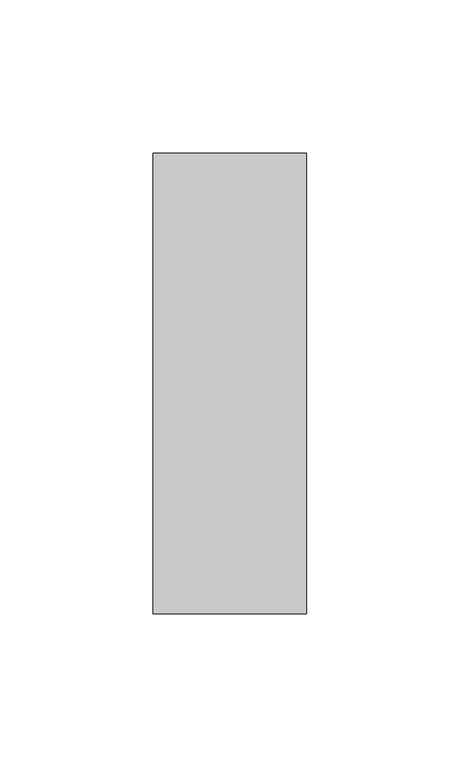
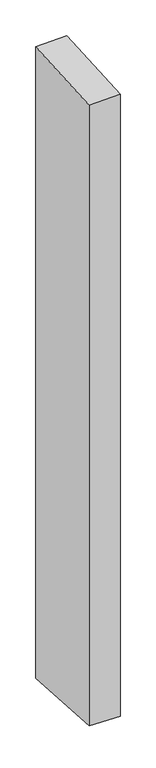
"""IFC4 building model written with IfcOpenShell, lengths in millimetres: member geometry, Прямоугольный импост : 50 x 150 мм."""

from ifc_helpers import new_model, si_unit, origin, place, context, project, spatial, faceted_brep, source, transform, mapped, element, save


def member_2f62b180(model_context):
    return source(origin(), model_context, "Body", "Brep", [
        faceted_brep([(-25.0, 75.0, 3.9360152), (25.0, 75.0, 5.1723194), (25.0, 75.0, -1077.1923742), (-25.0, 75.0, -1075.9850537), (-25.0, -75.0, -5.1723194), (-25.0, -75.0, -1066.1378277), (25.0, -75.0, -3.9360152), (25.0, -75.0, -1067.3451482)], [[[0, 1, 2, 3]], [[4, 0, 3, 5]], [[6, 4, 5, 7]], [[1, 6, 7, 2]], [[1, 0, 4, 6]], [[2, 7, 5, 3]]]),
    ])


if __name__ == "__main__":
    model = new_model("IFC4")
    model_context = context("Model", 3, world=origin())
    ifc_project = project(units=[si_unit("LENGTHUNIT", "METRE", prefix="MILLI")], contexts=[model_context])
    site = spatial("IfcSite", under=ifc_project)
    building = spatial("IfcBuilding", under=site)
    placement = place(None, origin())
    member_shape = member_2f62b180(model_context)
    element("IfcMember", 1, ObjectType="Прямоугольный импост : 50 x 150 мм", at=placement, inside=building, context=model_context, shape_type="MappedRepresentation", body=[
        mapped(member_shape, transform((0.0, 0.0, 0.0), x_axis=(1.0, 0.0, 0.0), y_axis=(0.0, 1.0, 0.0), z_axis=(0.0, 0.0, 1.0))),
    ])
    save(model, "model.ifc")
